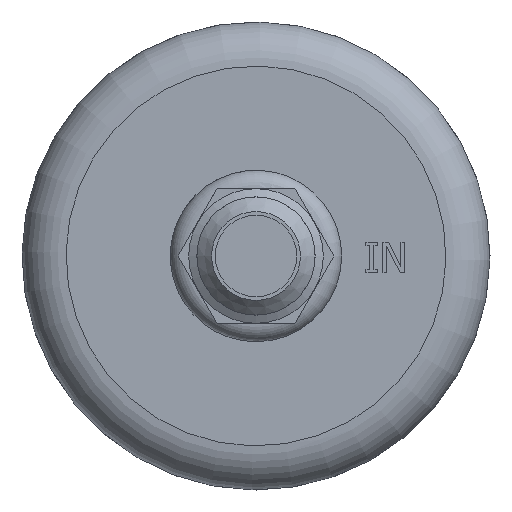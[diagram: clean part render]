
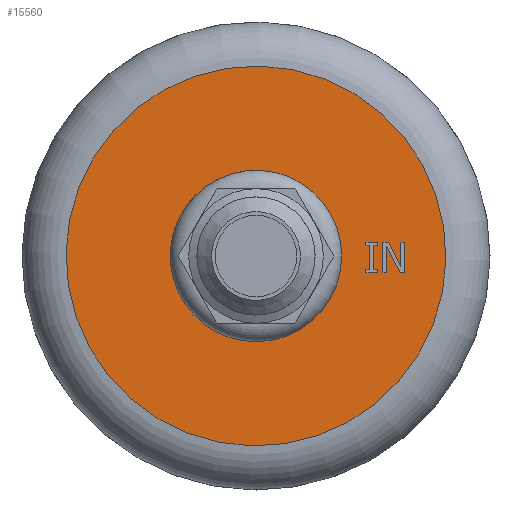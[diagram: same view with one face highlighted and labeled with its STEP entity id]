
A CAD part, front view. The second image highlights one B-rep face of the part: STEP entity #15560.
In plain terms, the highlighted planar face has unit normal (0, -1, 0).
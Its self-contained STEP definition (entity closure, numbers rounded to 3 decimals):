
#1251=LINE('',#21816,#2418);
#1254=LINE('',#21821,#2421);
#1256=LINE('',#21825,#2423);
#1258=LINE('',#21829,#2425);
#1260=LINE('',#21833,#2427);
#1262=LINE('',#21837,#2429);
#1263=LINE('',#21840,#2430);
#1265=LINE('',#21844,#2432);
#1267=LINE('',#21848,#2434);
#1269=LINE('',#21852,#2436);
#1271=LINE('',#21856,#2438);
#1273=LINE('',#21859,#2440);
#1276=LINE('',#21867,#2443);
#1280=LINE('',#21874,#2447);
#1283=LINE('',#21880,#2450);
#1286=LINE('',#21886,#2453);
#1289=LINE('',#21892,#2456);
#1291=LINE('',#21897,#2458);
#1294=LINE('',#21903,#2461);
#1297=LINE('',#21909,#2464);
#1300=LINE('',#21915,#2467);
#1303=LINE('',#21919,#2470);
#2418=VECTOR('',#17847,1.937);
#2421=VECTOR('',#17852,0.511);
#2423=VECTOR('',#17856,0.636);
#2425=VECTOR('',#17860,3.979);
#2427=VECTOR('',#17864,0.636);
#2429=VECTOR('',#17868,0.511);
#2430=VECTOR('',#17871,0.511);
#2432=VECTOR('',#17875,0.636);
#2434=VECTOR('',#17879,3.979);
#2436=VECTOR('',#17883,0.636);
#2438=VECTOR('',#17887,0.511);
#2440=VECTOR('',#17891,1.937);
#2443=VECTOR('',#17896,0.746);
#2447=VECTOR('',#17902,4.846);
#2450=VECTOR('',#17907,4.311);
#2453=VECTOR('',#17912,0.62);
#2456=VECTOR('',#17917,5.);
#2458=VECTOR('',#17921,5.);
#2461=VECTOR('',#17926,0.62);
#2464=VECTOR('',#17931,3.959);
#2467=VECTOR('',#17936,4.441);
#2470=VECTOR('',#17941,0.944);
#3609=PLANE('',#16498);
#4143=FACE_BOUND('',#5220,.T.);
#4144=FACE_BOUND('',#5221,.T.);
#4145=FACE_BOUND('',#5222,.T.);
#4291=FACE_OUTER_BOUND('',#5219,.T.);
#5219=EDGE_LOOP('',(#10847));
#5220=EDGE_LOOP('',(#10848,#10849,#10850,#10851,#10852,#10853,#10854,#10855,
#10856,#10857,#10858,#10859));
#5221=EDGE_LOOP('',(#10860,#10861,#10862,#10863,#10864,#10865,#10866,#10867,
#10868,#10869));
#5222=EDGE_LOOP('',(#10870));
#6178=CIRCLE('',#16456,14.);
#6192=CIRCLE('',#16497,31.017);
#6580=VERTEX_POINT('',#21813);
#6581=VERTEX_POINT('',#21815);
#6582=VERTEX_POINT('',#21819);
#6583=VERTEX_POINT('',#21823);
#6584=VERTEX_POINT('',#21827);
#6585=VERTEX_POINT('',#21831);
#6586=VERTEX_POINT('',#21835);
#6587=VERTEX_POINT('',#21839);
#6588=VERTEX_POINT('',#21843);
#6589=VERTEX_POINT('',#21847);
#6590=VERTEX_POINT('',#21851);
#6591=VERTEX_POINT('',#21855);
#6594=VERTEX_POINT('',#21864);
#6595=VERTEX_POINT('',#21866);
#6597=VERTEX_POINT('',#21872);
#6599=VERTEX_POINT('',#21878);
#6601=VERTEX_POINT('',#21884);
#6603=VERTEX_POINT('',#21890);
#6605=VERTEX_POINT('',#21896);
#6607=VERTEX_POINT('',#21902);
#6609=VERTEX_POINT('',#21908);
#6611=VERTEX_POINT('',#21914);
#6624=VERTEX_POINT('',#21946);
#6650=VERTEX_POINT('',#22061);
#8215=EDGE_CURVE('',#6581,#6580,#1251,.T.);
#8218=EDGE_CURVE('',#6580,#6582,#1254,.T.);
#8220=EDGE_CURVE('',#6582,#6583,#1256,.T.);
#8222=EDGE_CURVE('',#6583,#6584,#1258,.T.);
#8224=EDGE_CURVE('',#6584,#6585,#1260,.T.);
#8226=EDGE_CURVE('',#6585,#6586,#1262,.T.);
#8227=EDGE_CURVE('',#6587,#6581,#1263,.T.);
#8229=EDGE_CURVE('',#6588,#6587,#1265,.T.);
#8231=EDGE_CURVE('',#6589,#6588,#1267,.T.);
#8233=EDGE_CURVE('',#6590,#6589,#1269,.T.);
#8235=EDGE_CURVE('',#6591,#6590,#1271,.T.);
#8237=EDGE_CURVE('',#6586,#6591,#1273,.T.);
#8240=EDGE_CURVE('',#6595,#6594,#1276,.T.);
#8244=EDGE_CURVE('',#6594,#6597,#1280,.T.);
#8247=EDGE_CURVE('',#6597,#6599,#1283,.T.);
#8250=EDGE_CURVE('',#6599,#6601,#1286,.T.);
#8253=EDGE_CURVE('',#6601,#6603,#1289,.T.);
#8255=EDGE_CURVE('',#6605,#6595,#1291,.T.);
#8258=EDGE_CURVE('',#6607,#6605,#1294,.T.);
#8261=EDGE_CURVE('',#6609,#6607,#1297,.T.);
#8264=EDGE_CURVE('',#6611,#6609,#1300,.T.);
#8267=EDGE_CURVE('',#6603,#6611,#1303,.T.);
#8280=EDGE_CURVE('',#6624,#6624,#6178,.T.);
#8318=EDGE_CURVE('',#6650,#6650,#6192,.T.);
#10847=ORIENTED_EDGE('',*,*,#8318,.T.);
#10848=ORIENTED_EDGE('',*,*,#8215,.T.);
#10849=ORIENTED_EDGE('',*,*,#8218,.T.);
#10850=ORIENTED_EDGE('',*,*,#8220,.T.);
#10851=ORIENTED_EDGE('',*,*,#8222,.T.);
#10852=ORIENTED_EDGE('',*,*,#8224,.T.);
#10853=ORIENTED_EDGE('',*,*,#8226,.T.);
#10854=ORIENTED_EDGE('',*,*,#8237,.T.);
#10855=ORIENTED_EDGE('',*,*,#8235,.T.);
#10856=ORIENTED_EDGE('',*,*,#8233,.T.);
#10857=ORIENTED_EDGE('',*,*,#8231,.T.);
#10858=ORIENTED_EDGE('',*,*,#8229,.T.);
#10859=ORIENTED_EDGE('',*,*,#8227,.T.);
#10860=ORIENTED_EDGE('',*,*,#8240,.T.);
#10861=ORIENTED_EDGE('',*,*,#8244,.T.);
#10862=ORIENTED_EDGE('',*,*,#8247,.T.);
#10863=ORIENTED_EDGE('',*,*,#8250,.T.);
#10864=ORIENTED_EDGE('',*,*,#8253,.T.);
#10865=ORIENTED_EDGE('',*,*,#8267,.T.);
#10866=ORIENTED_EDGE('',*,*,#8264,.T.);
#10867=ORIENTED_EDGE('',*,*,#8261,.T.);
#10868=ORIENTED_EDGE('',*,*,#8258,.T.);
#10869=ORIENTED_EDGE('',*,*,#8255,.T.);
#10870=ORIENTED_EDGE('',*,*,#8280,.T.);
#15560=ADVANCED_FACE('',(#4291,#4143,#4144,#4145),#3609,.T.);
#16456=AXIS2_PLACEMENT_3D('',#21947,#17964,#17965);
#16497=AXIS2_PLACEMENT_3D('',#22062,#18058,#18059);
#16498=AXIS2_PLACEMENT_3D('',#22063,#18060,#18061);
#17847=DIRECTION('',(1.,0.,0.));
#17852=DIRECTION('',(0.,0.,-1.));
#17856=DIRECTION('',(-1.,0.,0.));
#17860=DIRECTION('',(0.,0.,-1.));
#17864=DIRECTION('',(1.,0.,0.));
#17868=DIRECTION('',(0.,0.,-1.));
#17871=DIRECTION('',(0.,0.,1.));
#17875=DIRECTION('',(-1.,0.,0.));
#17879=DIRECTION('',(0.,0.,1.));
#17883=DIRECTION('',(1.,0.,0.));
#17887=DIRECTION('',(0.,0.,1.));
#17891=DIRECTION('',(-1.,0.,0.));
#17896=DIRECTION('',(-1.,0.,0.));
#17902=DIRECTION('',(-0.457,0.,0.89));
#17907=DIRECTION('',(0.,0.,-1.));
#17912=DIRECTION('',(-1.,0.,0.));
#17917=DIRECTION('',(0.,0.,1.));
#17921=DIRECTION('',(0.,0.,-1.));
#17926=DIRECTION('',(1.,0.,0.));
#17931=DIRECTION('',(0.,0.,1.));
#17936=DIRECTION('',(0.453,0.,-0.891));
#17941=DIRECTION('',(1.,0.,0.));
#17964=DIRECTION('center_axis',(0.,1.,0.));
#17965=DIRECTION('ref_axis',(0.,0.,-1.));
#18058=DIRECTION('center_axis',(0.,-1.,0.));
#18059=DIRECTION('ref_axis',(0.324,0.,-0.946));
#18060=DIRECTION('center_axis',(0.,-1.,0.));
#18061=DIRECTION('ref_axis',(0.946,0.,0.324));
#21813=CARTESIAN_POINT('',(19.887,-26.506,2.28));
#21815=CARTESIAN_POINT('',(17.95,-26.506,2.28));
#21816=CARTESIAN_POINT('',(13.314,-26.506,2.28));
#21819=CARTESIAN_POINT('',(19.887,-26.506,1.769));
#21821=CARTESIAN_POINT('',(19.887,-26.506,-8.945));
#21823=CARTESIAN_POINT('',(19.25,-26.506,1.769));
#21825=CARTESIAN_POINT('',(12.996,-26.506,1.769));
#21827=CARTESIAN_POINT('',(19.25,-26.506,-2.21));
#21829=CARTESIAN_POINT('',(19.25,-26.506,-10.935));
#21831=CARTESIAN_POINT('',(19.887,-26.506,-2.21));
#21833=CARTESIAN_POINT('',(13.314,-26.506,-2.21));
#21835=CARTESIAN_POINT('',(19.887,-26.506,-2.72));
#21837=CARTESIAN_POINT('',(19.887,-26.506,-11.19));
#21839=CARTESIAN_POINT('',(17.95,-26.506,1.769));
#21840=CARTESIAN_POINT('',(17.95,-26.506,-8.69));
#21843=CARTESIAN_POINT('',(18.586,-26.506,1.769));
#21844=CARTESIAN_POINT('',(12.345,-26.506,1.769));
#21847=CARTESIAN_POINT('',(18.586,-26.506,-2.21));
#21848=CARTESIAN_POINT('',(18.586,-26.506,-8.945));
#21851=CARTESIAN_POINT('',(17.95,-26.506,-2.21));
#21852=CARTESIAN_POINT('',(12.663,-26.506,-2.21));
#21855=CARTESIAN_POINT('',(17.95,-26.506,-2.72));
#21856=CARTESIAN_POINT('',(17.95,-26.506,-10.935));
#21859=CARTESIAN_POINT('',(12.345,-26.506,-2.72));
#21864=CARTESIAN_POINT('',(23.541,-26.506,-2.72));
#21866=CARTESIAN_POINT('',(24.287,-26.506,-2.72));
#21867=CARTESIAN_POINT('',(15.141,-26.506,-2.72));
#21872=CARTESIAN_POINT('',(21.329,-26.506,1.591));
#21874=CARTESIAN_POINT('',(24.125,-26.506,-3.857));
#21878=CARTESIAN_POINT('',(21.329,-26.506,-2.72));
#21880=CARTESIAN_POINT('',(21.329,-26.506,-11.19));
#21884=CARTESIAN_POINT('',(20.709,-26.506,-2.72));
#21886=CARTESIAN_POINT('',(13.725,-26.506,-2.72));
#21890=CARTESIAN_POINT('',(20.709,-26.506,2.28));
#21892=CARTESIAN_POINT('',(20.709,-26.506,-8.69));
#21896=CARTESIAN_POINT('',(24.287,-26.506,2.28));
#21897=CARTESIAN_POINT('',(24.287,-26.506,-11.19));
#21902=CARTESIAN_POINT('',(23.667,-26.506,2.28));
#21903=CARTESIAN_POINT('',(15.514,-26.506,2.28));
#21908=CARTESIAN_POINT('',(23.667,-26.506,-1.679));
#21909=CARTESIAN_POINT('',(23.667,-26.506,-8.69));
#21914=CARTESIAN_POINT('',(21.653,-26.506,2.28));
#21915=CARTESIAN_POINT('',(25.56,-26.506,-5.401));
#21919=CARTESIAN_POINT('',(14.197,-26.506,2.28));
#21946=CARTESIAN_POINT('',(14.,-26.506,0.));
#21947=CARTESIAN_POINT('Origin',(0.,-26.506,
0.));
#22061=CARTESIAN_POINT('',(10.06,-26.506,-29.34));
#22062=CARTESIAN_POINT('Origin',(0.,-26.506,
0.));
#22063=CARTESIAN_POINT('Origin',(6.741,-26.506,-19.66));
